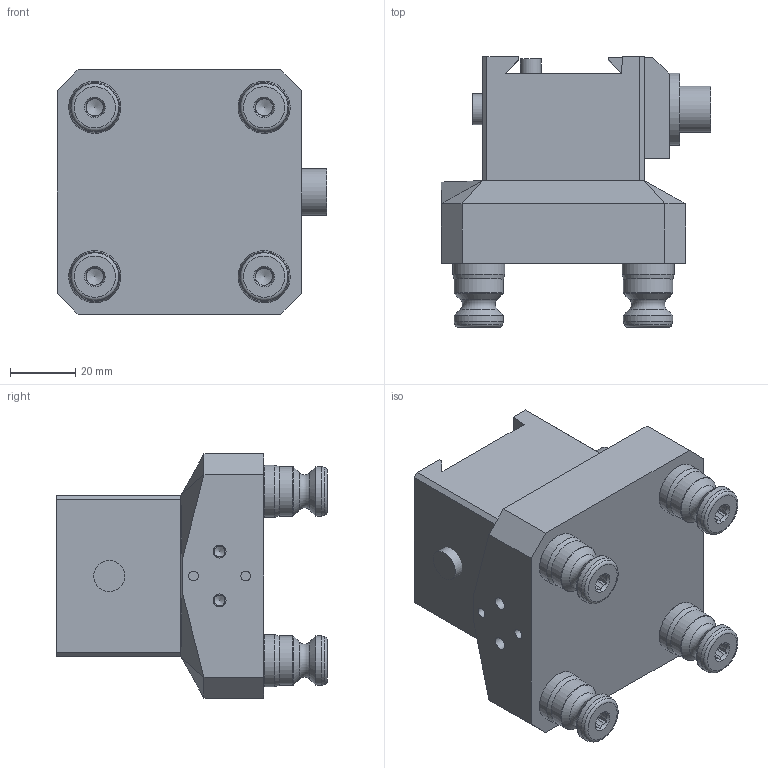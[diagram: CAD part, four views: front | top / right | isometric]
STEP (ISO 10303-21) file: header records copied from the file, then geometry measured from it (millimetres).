
FILE_DESCRIPTION (( 'STEP AP214' ), '1' );
FILE_NAME ('A52-D22_WEBSITE.step', '2025-08-13T04:54:58', ( '' ), ( '' ), 'SwSTEP 2.0', 'SolidWorks 2025', '' );
FILE_SCHEMA (( 'AUTOMOTIVE_DESIGN' ));
Length unit declared in the file: inch
Products named in the file (15): D_HW.72170_WEBSITE_DEFAULT; D_LP375_WEBSITE_NO THREADS; D_SLD375_WEBSITE_SLD375; D_D22-1_WEBSITE_D221M; D_LP250-N_WEBSITE_NO THREADS ; D_CDM375_WEBSITE; A52-D22-1_WEBSITE; D_D22_WEBSITE; PS16F_WEBSITE; D_HW.0480X0625.CS_WEBSITE_DEFAULT; PS16F-1_WEBSITE_HARD TURN; D_HW.72132.SHCS_WEBSITE_91251A587; D_HW.0406X0875.FW_WEBSITE_DEFAULT; A52-D22_WEBSITE; M8X20.FPSS_WEBSITE_93245A145
Assembly tree (19 placements, depth 3):
  A52-D22_WEBSITE
    A52-D22-1_WEBSITE
    D_D22_WEBSITE
      D_D22-1_WEBSITE_D221M
      D_LP375_WEBSITE_NO THREADS  x2
      D_HW.0480X0625.CS_WEBSITE_DEFAULT
      D_HW.0406X0875.FW_WEBSITE_DEFAULT
      D_HW.72170_WEBSITE_DEFAULT
      D_CDM375_WEBSITE
      D_SLD375_WEBSITE_SLD375
      D_HW.72132.SHCS_WEBSITE_91251A587  x2
      D_LP250-N_WEBSITE_NO THREADS 
    PS16F_WEBSITE  x4
      PS16F-1_WEBSITE_HARD TURN
      M8X20.FPSS_WEBSITE_93245A145
Bounding box: 82.71 x 83.06 x 75 mm (x, y, z)
Volume: 230073.8 mm3; surface area: 65178.5 mm2
Topology: 20 solids, 20 shells, 425 faces, 928 edges, 585 vertices
Faces by surface type: plane 238, cylinder 87, cone 71, torus 28, bspline 1
Full cylindrical faces by diameter (mm): 3.023 x2, 3.3 x2, 3.759 x3, 4 x2, 4.039 x2, 4.803 x1, 4.826 x2, 5.25 x4, 6.35 x1, 6.363 x1, 6.528 x2, 6.8 x8, 7.937 x1, 7.938 x2, 8 x8, 8.509 x2, 9.525 x3, 9.535 x2, 9.555 x2, 10.312 x1, 10.319 x1, 11.906 x2, 11.991 x4, 12.017 x4, 12.7 x3, 14.288 x1, 15.202 x8, 15.913 x1, 15.977 x1, 15.997 x4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
Entity records: 7971 total; most frequent: CARTESIAN_POINT 1831, DIRECTION 1068, ORIENTED_EDGE 810, AXIS2_PLACEMENT_3D 421, EDGE_CURVE 405, EDGE_LOOP 368, FACE_OUTER_BOUND 303, VERTEX_POINT 297
